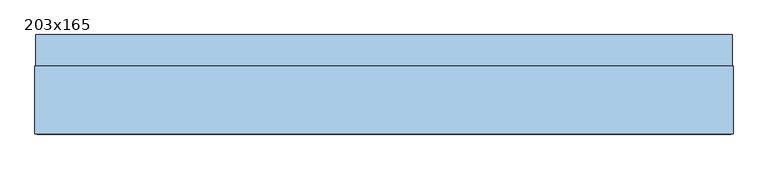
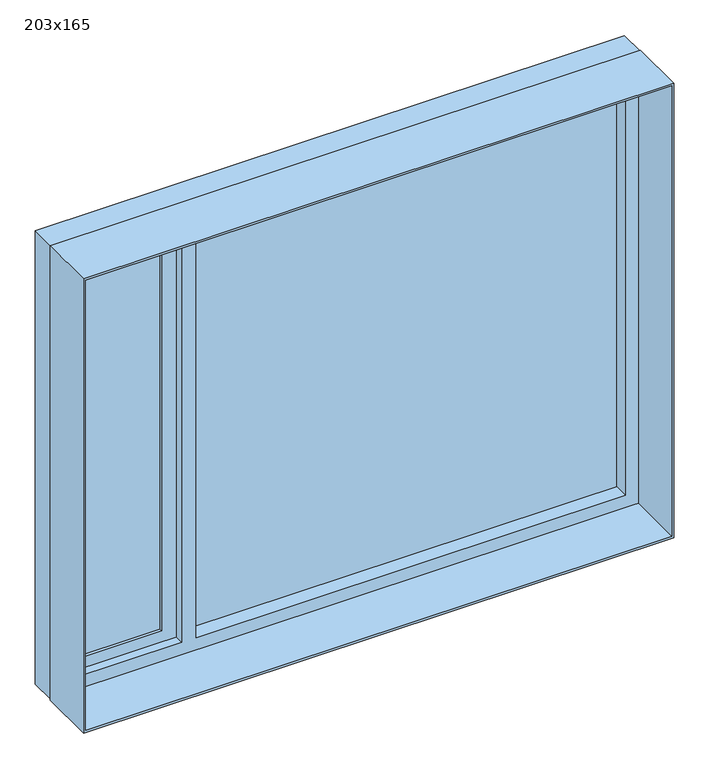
"""IFC4 building model written with IfcOpenShell, lengths in millimetres: window geometry, Vindu 2 felt med åpning side : 203x165."""

from ifc_helpers import new_model, si_unit, frame, origin, place, context, project, spatial, polyline, outline, extrude, source, transform, mapped, element, save


def window_203x165_3c94fc10(model_context):
    return source(origin(), model_context, "Body", "SweptSolid", [
        extrude(outline(polyline([(-557.3982693, 95.0), (922.6017307, 95.0), (922.6017307, 75.0), (-557.3982693, 75.0), (-557.3982693, 95.0)])), frame((0.0, 0.0, 852.0), z_axis=(0.0, 0.0, 1.0), x_axis=(1.0, 0.0, 0.0)), (0.0, 0.0, 1.0), 1550.0),
        extrude(outline(polyline([(2402.0, -607.3982693), (2402.0, -1007.3982693), (852.0, -1007.3982693), (852.0, -607.3982693), (2402.0, -607.3982693)]), holes=[polyline([(892.0, -967.3982693), (2362.0, -967.3982693), (2362.0, -657.3982693), (892.0, -657.3982693), (892.0, -967.3982693)])]), frame((0.0, 55.0, 0.0), z_axis=(0.0, 1.0, 0.0), x_axis=(0.0, 0.0, 1.0)), (0.0, 0.0, 1.0), 40.0),
        extrude(outline(polyline([(800.0, 974.6017307), (2454.0, 974.6017307), (2454.0, -1059.3982693), (800.0, -1059.3982693), (800.0, 974.6017307)]), holes=[polyline([(807.0, 967.6017307), (807.0, -1052.3982693), (2447.0, -1052.3982693), (2447.0, 967.6017307), (807.0, 967.6017307)])]), frame((0.0, -175.0, 0.0), z_axis=(0.0, 1.0, 0.0), x_axis=(0.0, 0.0, 1.0)), (0.0, 0.0, 1.0), 198.0),
        extrude(outline(polyline([(-967.3982693, 85.0), (-657.3982693, 85.0), (-657.3982693, 65.0), (-967.3982693, 65.0), (-967.3982693, 85.0)])), frame((0.0, 0.0, 892.0), z_axis=(0.0, 0.0, 1.0), x_axis=(1.0, 0.0, 0.0)), (0.0, 0.0, 1.0), 1470.0),
        extrude(outline(polyline([(2452.0, -1057.3982693), (802.0, -1057.3982693), (802.0, 972.6017307), (2452.0, 972.6017307), (2452.0, -1057.3982693)]), holes=[polyline([(2402.0, -607.3982693), (852.0, -607.3982693), (852.0, -1007.3982693), (2402.0, -1007.3982693), (2402.0, -607.3982693)]), polyline([(2402.0, -557.3982693), (2402.0, 922.6017307), (852.0, 922.6017307), (852.0, -557.3982693), (2402.0, -557.3982693)])]), frame((0.0, 23.0, 0.0), z_axis=(0.0, 1.0, 0.0), x_axis=(0.0, 0.0, 1.0)), (0.0, 0.0, 1.0), 92.0),
    ])


if __name__ == "__main__":
    model = new_model("IFC4")
    model_context = context("Model", 3, world=origin())
    ifc_project = project(units=[si_unit("LENGTHUNIT", "METRE", prefix="MILLI")], contexts=[model_context])
    site = spatial("IfcSite", under=ifc_project)
    building = spatial("IfcBuilding", under=site)
    placement = place(None, origin())
    window_203x165_shape = window_203x165_3c94fc10(model_context)
    element("IfcWindow", 1, ObjectType="Vindu 2 felt med åpning side : 203x165", at=placement, inside=building, context=model_context, shape_type="MappedRepresentation", body=[
        mapped(window_203x165_shape, transform((0.0, 0.0, 0.0), x_axis=(1.0, 0.0, 0.0), y_axis=(0.0, 1.0, 0.0), z_axis=(0.0, 0.0, 1.0))),
    ])
    save(model, "model.ifc")
